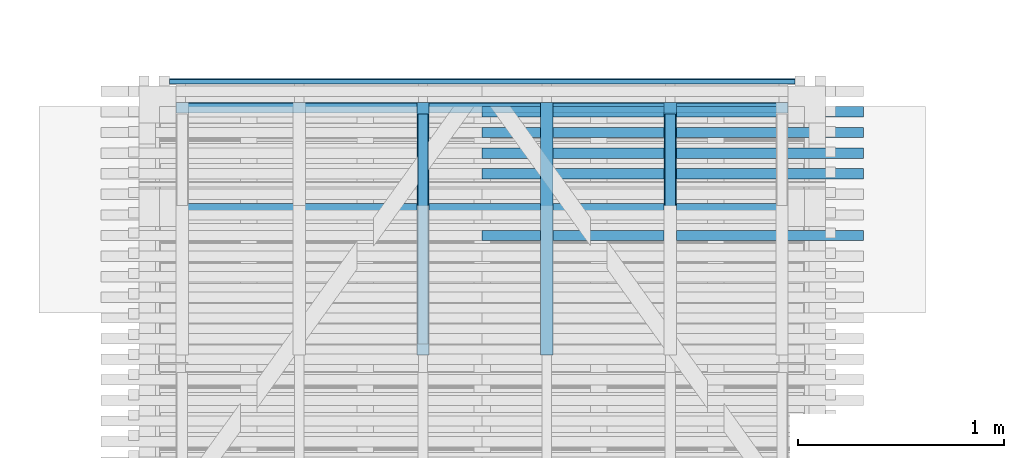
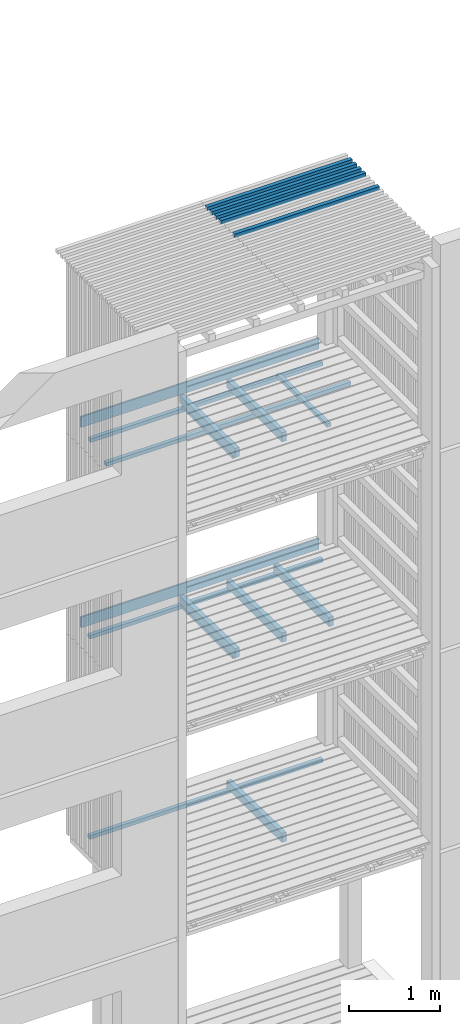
# One storey, part 103 of 182: 20 beams.
"""IFC2X3 building model written with IfcOpenShell, lengths in metres."""

import ifcopenshell
import ifcopenshell.guid

model = None  # the IFC model being written
_history = None  # IfcOwnerHistory: only IFC2X3 demands one
_inside = {}  # id of a spatial element -> (the spatial element, [elements in it])
_under = {}  # id of a project, library or spatial element -> (it, [spatial elements below it])
_declared = {}  # id of a project -> (the project, [libraries it declares])
_typed = {}  # id of a type object -> (the type object, [elements of that type])
_made_of = {}  # id of a material, layer set ... -> (it, [elements and type objects made of it])


def new_model(schema):
    """Start an empty IFC model of exactly this schema.

    Asked for "IFC4X3", IfcOpenShell would pick the latest addendum, in which some entities
    have other attributes; the version numbers below select the first issue.
    IFC2X3 requires an IfcOwnerHistory on every rooted entity: one is made here for all.
    """
    global model, _history
    if schema == "IFC4X3":
        model = ifcopenshell.file(schema_version=(4, 3, 0, 0))
    else:
        model = ifcopenshell.file(schema=schema)
    _inside.clear()
    _under.clear()
    _declared.clear()
    _typed.clear()
    _made_of.clear()
    _history = None
    if model.schema == "IFC2X3":
        org = make("IfcOrganization", Name="unknown")
        user = make(
            "IfcPersonAndOrganization",
            ThePerson=make("IfcPerson", FamilyName="unknown"),
            TheOrganization=org,
        )
        app = make(
            "IfcApplication",
            ApplicationDeveloper=org,
            Version="unknown",
            ApplicationFullName="unknown",
            ApplicationIdentifier="unknown",
        )
        _history = make(
            "IfcOwnerHistory",
            OwningUser=user,
            OwningApplication=app,
            ChangeAction="ADDED",
            CreationDate=0,
        )
    return model


def make(cls, **values):
    """One entity of the class cls with the attributes given. An attribute that is None is left unset."""
    return model.create_entity(
        cls, **{name: value for name, value in values.items() if value is not None}
    )


def rooted(cls, **values):
    """An entity with a GlobalId (a new one), such as an element, a storey or a relation."""
    return make(cls, GlobalId=ifcopenshell.guid.new(), OwnerHistory=_history, **values)


def si_unit(unit_type, name, prefix=None):
    """IfcSIUnit, for example si_unit("LENGTHUNIT", "METRE", prefix="MILLI")."""
    return make("IfcSIUnit", UnitType=unit_type, Prefix=prefix, Name=name)


def assignment(units):
    """IfcUnitAssignment: the units of a project."""
    return None if units is None else make("IfcUnitAssignment", Units=units)


def point(xyz):
    """IfcCartesianPoint."""
    return None if xyz is None else make("IfcCartesianPoint", Coordinates=xyz)


def direction(xyz):
    """IfcDirection."""
    return None if xyz is None else make("IfcDirection", DirectionRatios=xyz)


def frame(location, z_axis=None, x_axis=None):
    """IfcAxis2Placement3D, a coordinate frame: its origin and axes. An axis left out is left unset."""
    return make(
        "IfcAxis2Placement3D",
        Location=point(location),
        Axis=direction(z_axis),
        RefDirection=direction(x_axis),
    )


def origin():
    """The frame at (0, 0, 0) with its axes left unset."""
    return frame((0.0, 0.0, 0.0))


def place(relative_to, where):
    """IfcLocalPlacement: puts the frame where relative to a parent placement (None: the world)."""
    return make(
        "IfcLocalPlacement", PlacementRelTo=relative_to, RelativePlacement=where
    )


def context(
    kind, dimensions, precision=None, world=None, true_north=None, identifier=None
):
    """IfcGeometricRepresentationContext, for example the 3D "Model" context."""
    return make(
        "IfcGeometricRepresentationContext",
        ContextIdentifier=identifier,
        ContextType=kind,
        CoordinateSpaceDimension=dimensions,
        Precision=precision,
        WorldCoordinateSystem=world,
        TrueNorth=true_north,
    )


def project(units=None, contexts=None):
    """IfcProject with its units and contexts."""
    return rooted(
        "IfcProject",
        Name="project",
        RepresentationContexts=contexts,
        UnitsInContext=assignment(units),
    )


def spatial(cls, under=None, at=None, **own):
    """A site, building, storey or space (cls), placed at a placement, below another one or the project."""
    s = rooted(cls, ObjectPlacement=at, **own)
    if under is not None:
        _under.setdefault(under.id(), (under, []))[1].append(s)
    return s


def faces_of(points, faces, orient=None, outer=None):
    """IfcFace entities. A face is a list of loops; a loop is a list of indices into points, from 0.

    orient and outer hold one flag for each loop. By default every Orientation is true, the
    first loop of a face is its IfcFaceOuterBound and the others are IfcFaceBound.
    """
    made = []
    for i, loops in enumerate(faces):
        bounds = []
        for j, loop in enumerate(loops):
            is_outer = j == 0 if outer is None else outer[i][j]
            bounds.append(
                make(
                    "IfcFaceOuterBound" if is_outer else "IfcFaceBound",
                    Bound=make("IfcPolyLoop", Polygon=[points[k] for k in loop]),
                    Orientation=True if orient is None else orient[i][j],
                )
            )
        made.append(make("IfcFace", Bounds=bounds))
    return made


def faceted_brep(points, faces, orient=None, outer=None, voids=None):
    """IfcFacetedBrep: a solid bounded by flat faces; with voids (closed shells), ...WithVoids."""
    shared = [point(p) for p in points]
    hull = make("IfcClosedShell", CfsFaces=faces_of(shared, faces, orient, outer))
    if voids is None:
        return make("IfcFacetedBrep", Outer=hull)
    return make(
        "IfcFacetedBrepWithVoids",
        Outer=hull,
        Voids=[
            make(cls, CfsFaces=faces_of(shared, fs, o, b)) for cls, fs, o, b in voids
        ],
    )


def shape(context_of_items, identifier, shape_type, items):
    """IfcShapeRepresentation: the items that make up one representation, for example the "Body"."""
    return make(
        "IfcShapeRepresentation",
        ContextOfItems=context_of_items,
        RepresentationIdentifier=identifier,
        RepresentationType=shape_type,
        Items=items,
    )


def made_of(thing, what):
    """Note that an element or type object is made of a material, layer set ...; save() writes the relation."""
    if what is not None:
        _made_of.setdefault(what.id(), (what, []))[1].append(thing)
    return thing


def element(
    cls,
    number,
    at=None,
    inside=None,
    cuts=None,
    type_object=None,
    material=None,
    context=None,
    identifier="Body",
    shape_type=None,
    held_by="IfcProductDefinitionShape",
    body=None,
    shapes=None,
    **own,
):
    """One element of the class cls, such as IfcWall. Its Tag is "e" and its number.

    at: its placement. inside: the storey or other place that contains it. cuts: it is an
    opening in that element (IfcRelVoidsElement). A single representation is given by context,
    identifier, shape_type and body (its items); several are given by shapes. held_by: the class
    of the entity that holds the representations. save() writes the other relations.
    """
    e = rooted(cls, Tag="e%d" % number, ObjectPlacement=at, **own)
    if body is not None:
        shapes = [shape(context, identifier, shape_type, body)]
    if shapes is not None:
        e.Representation = make(held_by, Representations=shapes)
    if inside is not None:
        _inside.setdefault(inside.id(), (inside, []))[1].append(e)
    if cuts is not None:
        rooted(
            "IfcRelVoidsElement", RelatingBuildingElement=cuts, RelatedOpeningElement=e
        )
    if type_object is not None:
        _typed.setdefault(type_object.id(), (type_object, []))[1].append(e)
    return made_of(e, material)


def aggregate(whole, parts):
    """IfcRelAggregates: a whole, such as a stair, and the parts it consists of."""
    return rooted("IfcRelAggregates", RelatingObject=whole, RelatedObjects=parts)


def save(model, path):
    """Write the relations noted so far, then the file.

    IfcRelAggregates (storeys below a building ...), IfcRelContainedInSpatialStructure (elements
    in a storey), IfcRelDefinesByType, IfcRelAssociatesMaterial and IfcRelDeclares: one each for
    every whole, place, type object, material and project.
    """
    for whole, parts in _under.values():
        aggregate(whole, parts)
    for where, things in _inside.values():
        rooted(
            "IfcRelContainedInSpatialStructure",
            RelatedElements=things,
            RelatingStructure=where,
        )
    for kind, things in _typed.values():
        rooted("IfcRelDefinesByType", RelatedObjects=things, RelatingType=kind)
    for what, things in _made_of.values():
        rooted("IfcRelAssociatesMaterial", RelatedObjects=things, RelatingMaterial=what)
    for by, libraries in _declared.values():
        rooted("IfcRelDeclares", RelatingContext=by, RelatedDefinitions=libraries)
    model.write(path)


model = new_model("IFC2X3")

# Units and contexts
model_context = context("Model", 3, precision=1e-06, world=origin())
ifc_project = project(units=[si_unit("LENGTHUNIT", "METRE"), si_unit("PLANEANGLEUNIT", "RADIAN")], contexts=[model_context])

# Site, building, storey
site = spatial("IfcSite", under=ifc_project, CompositionType="ELEMENT")
building = spatial("IfcBuilding", under=site, CompositionType="ELEMENT")
storey = spatial("IfcBuildingStorey", under=building, Name="vs", CompositionType="ELEMENT", Elevation=-0.85)

# Beams
placement = place(None, origin())
beam_1_placement = place(placement, frame((46.53040135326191, 6.545077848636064, 10.47999999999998), z_axis=(0.0, 0.0, 1.0), x_axis=(-1.0, 0.0, 0.0)))
element("IfcBeam", 1, at=beam_1_placement, inside=storey, Name="Bardage", context=model_context, shape_type="Brep", body=[
    faceted_brep([(-3e-15, 0.024999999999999, 0.025000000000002), (-3e-15, -0.025000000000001, 0.025000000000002), (1.849999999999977, -0.025000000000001, 0.025000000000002), (1.849999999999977, 0.024999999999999, 0.025000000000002), (1.849999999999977, -0.025000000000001, 0.025000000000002), (-3e-15, -0.025000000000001, 0.025000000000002), (-3e-15, -0.025000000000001, -0.024999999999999), (1.849999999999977, -0.025000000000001, -0.024999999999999), (-3e-15, -0.025000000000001, 0.025000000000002), (-3e-15, 0.024999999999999, 0.025000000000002), (-3e-15, 0.024999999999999, -0.024999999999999), (-3e-15, -0.025000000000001, -0.024999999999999), (-3e-15, 0.024999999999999, -0.024999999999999), (-3e-15, 0.024999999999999, 0.025000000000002), (1.849999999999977, 0.024999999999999, 0.025000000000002), (1.849999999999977, 0.024999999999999, -0.024999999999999), (1.849999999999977, -0.025000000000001, -0.024999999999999), (-3e-15, -0.025000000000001, -0.024999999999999), (-3e-15, 0.024999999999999, -0.024999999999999), (1.849999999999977, 0.024999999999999, -0.024999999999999), (1.849999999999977, -0.025000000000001, 0.025000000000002), (1.849999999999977, -0.025000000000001, -0.024999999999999), (1.849999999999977, 0.024999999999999, -0.024999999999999), (1.849999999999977, 0.024999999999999, 0.025000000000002)], [[[0, 1, 2, 3]], [[4, 5, 6, 7]], [[8, 9, 10, 11]], [[12, 13, 14, 15]], [[16, 17, 18, 19]], [[20, 21, 22, 23]]]),
])
beam_2_placement = place(placement, frame((46.53040135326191, 6.945077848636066, 10.47999999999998), z_axis=(0.0, 0.0, 1.0), x_axis=(-1.0, 0.0, 0.0)))
element("IfcBeam", 2, at=beam_2_placement, inside=storey, Name="Bardage", context=model_context, shape_type="Brep", body=[
    faceted_brep([(-3e-15, 0.025000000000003, 0.025000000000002), (-3e-15, -0.024999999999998, 0.025000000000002), (1.849999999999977, -0.025000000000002, 0.025000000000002), (1.849999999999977, 0.025000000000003, 0.025000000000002), (1.849999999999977, -0.025000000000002, 0.025000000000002), (-3e-15, -0.024999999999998, 0.025000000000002), (-3e-15, -0.024999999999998, -0.024999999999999), (1.849999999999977, -0.025000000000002, -0.024999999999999), (-3e-15, -0.024999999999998, 0.025000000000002), (-3e-15, 0.025000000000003, 0.025000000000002), (-3e-15, 0.025000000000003, -0.024999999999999), (-3e-15, -0.024999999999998, -0.024999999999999), (-3e-15, 0.025000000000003, -0.024999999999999), (-3e-15, 0.025000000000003, 0.025000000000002), (1.849999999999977, 0.025000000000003, 0.025000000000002), (1.849999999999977, 0.025000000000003, -0.024999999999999), (1.849999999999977, -0.025000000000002, -0.024999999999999), (-3e-15, -0.024999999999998, -0.024999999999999), (-3e-15, 0.025000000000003, -0.024999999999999), (1.849999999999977, 0.025000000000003, -0.024999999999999), (1.849999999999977, -0.025000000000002, 0.025000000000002), (1.849999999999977, -0.025000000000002, -0.024999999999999), (1.849999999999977, 0.025000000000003, -0.024999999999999), (1.849999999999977, 0.025000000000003, 0.025000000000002)], [[[0, 1, 2, 3]], [[4, 5, 6, 7]], [[8, 9, 10, 11]], [[12, 13, 14, 15]], [[16, 17, 18, 19]], [[20, 21, 22, 23]]]),
])
beam_3_placement = place(placement, frame((46.53040135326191, 6.845077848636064, 10.47999999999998), z_axis=(0.0, 0.0, 1.0), x_axis=(-1.0, 2e-15, 0.0)))
element("IfcBeam", 3, at=beam_3_placement, inside=storey, Name="Bardage", context=model_context, shape_type="Brep", body=[
    faceted_brep([(-3e-15, 0.024999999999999, 0.025000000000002), (-3e-15, -0.025000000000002, 0.025000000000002), (1.849999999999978, -0.024999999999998, 0.025000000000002), (1.849999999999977, 0.025000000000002, 0.025000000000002), (1.849999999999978, -0.024999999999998, 0.025000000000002), (-3e-15, -0.025000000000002, 0.025000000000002), (-3e-15, -0.025000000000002, -0.024999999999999), (1.849999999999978, -0.024999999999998, -0.024999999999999), (-3e-15, -0.025000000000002, 0.025000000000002), (-3e-15, 0.024999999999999, 0.025000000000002), (-3e-15, 0.024999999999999, -0.024999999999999), (-3e-15, -0.025000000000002, -0.024999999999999), (-3e-15, 0.024999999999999, -0.024999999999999), (-3e-15, 0.024999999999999, 0.025000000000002), (1.849999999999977, 0.025000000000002, 0.025000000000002), (1.849999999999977, 0.025000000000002, -0.024999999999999), (1.849999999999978, -0.024999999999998, -0.024999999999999), (-3e-15, -0.025000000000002, -0.024999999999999), (-3e-15, 0.024999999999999, -0.024999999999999), (1.849999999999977, 0.025000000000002, -0.024999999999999), (1.849999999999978, -0.024999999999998, 0.025000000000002), (1.849999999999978, -0.024999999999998, -0.024999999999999), (1.849999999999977, 0.025000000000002, -0.024999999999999), (1.849999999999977, 0.025000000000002, 0.025000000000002)], [[[0, 1, 2, 3]], [[4, 5, 6, 7]], [[8, 9, 10, 11]], [[12, 13, 14, 15]], [[16, 17, 18, 19]], [[20, 21, 22, 23]]]),
])
beam_4_placement = place(placement, frame((46.53040135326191, 7.045077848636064, 10.47999999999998), z_axis=(0.0, 0.0, 1.0), x_axis=(-1.0, 0.0, 0.0)))
element("IfcBeam", 4, at=beam_4_placement, inside=storey, Name="Bardage", context=model_context, shape_type="Brep", body=[
    faceted_brep([(-3e-15, 0.024999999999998, 0.025000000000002), (-3e-15, -0.025000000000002, 0.025000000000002), (1.849999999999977, -0.025000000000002, 0.025000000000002), (1.849999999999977, 0.024999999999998, 0.025000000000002), (1.849999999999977, -0.025000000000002, 0.025000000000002), (-3e-15, -0.025000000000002, 0.025000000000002), (-3e-15, -0.025000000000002, -0.024999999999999), (1.849999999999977, -0.025000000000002, -0.024999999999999), (-3e-15, -0.025000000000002, 0.025000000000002), (-3e-15, 0.024999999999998, 0.025000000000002), (-3e-15, 0.024999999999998, -0.024999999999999), (-3e-15, -0.025000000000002, -0.024999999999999), (-3e-15, 0.024999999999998, -0.024999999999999), (-3e-15, 0.024999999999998, 0.025000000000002), (1.849999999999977, 0.024999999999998, 0.025000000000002), (1.849999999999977, 0.024999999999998, -0.024999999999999), (1.849999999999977, -0.025000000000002, -0.024999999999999), (-3e-15, -0.025000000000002, -0.024999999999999), (-3e-15, 0.024999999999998, -0.024999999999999), (1.849999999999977, 0.024999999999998, -0.024999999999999), (1.849999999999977, -0.025000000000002, 0.025000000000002), (1.849999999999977, -0.025000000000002, -0.024999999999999), (1.849999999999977, 0.024999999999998, -0.024999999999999), (1.849999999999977, 0.024999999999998, 0.025000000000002)], [[[0, 1, 2, 3]], [[4, 5, 6, 7]], [[8, 9, 10, 11]], [[12, 13, 14, 15]], [[16, 17, 18, 19]], [[20, 21, 22, 23]]]),
])
beam_5_placement = place(placement, frame((46.53040135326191, 7.145077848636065, 10.47999999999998), z_axis=(0.0, 0.0, 1.0), x_axis=(-1.0, 0.0, 0.0)))
element("IfcBeam", 5, at=beam_5_placement, inside=storey, Name="Bardage", context=model_context, shape_type="Brep", body=[
    faceted_brep([(-3e-15, 0.024999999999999, 0.025000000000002), (-3e-15, -0.024999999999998, 0.025000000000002), (1.849999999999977, -0.024999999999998, 0.025000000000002), (1.849999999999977, 0.024999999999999, 0.025000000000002), (1.849999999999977, -0.024999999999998, 0.025000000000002), (-3e-15, -0.024999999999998, 0.025000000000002), (-3e-15, -0.024999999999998, -0.024999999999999), (1.849999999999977, -0.024999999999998, -0.024999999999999), (-3e-15, -0.024999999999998, 0.025000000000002), (-3e-15, 0.024999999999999, 0.025000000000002), (-3e-15, 0.024999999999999, -0.024999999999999), (-3e-15, -0.024999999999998, -0.024999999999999), (-3e-15, 0.024999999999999, -0.024999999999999), (-3e-15, 0.024999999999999, 0.025000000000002), (1.849999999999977, 0.024999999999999, 0.025000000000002), (1.849999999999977, 0.024999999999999, -0.024999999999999), (1.849999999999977, -0.024999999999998, -0.024999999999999), (-3e-15, -0.024999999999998, -0.024999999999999), (-3e-15, 0.024999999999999, -0.024999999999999), (1.849999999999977, 0.024999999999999, -0.024999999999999), (1.849999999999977, -0.024999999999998, 0.025000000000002), (1.849999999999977, -0.024999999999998, -0.024999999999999), (1.849999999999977, 0.024999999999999, -0.024999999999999), (1.849999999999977, 0.024999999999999, 0.025000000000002)], [[[0, 1, 2, 3]], [[4, 5, 6, 7]], [[8, 9, 10, 11]], [[12, 13, 14, 15]], [[16, 17, 18, 19]], [[20, 21, 22, 23]]]),
])
beam_6_placement = place(placement, frame((45.59340135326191, 5.965077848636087, 5.304249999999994), z_axis=(0.0, 0.0, 1.0), x_axis=(0.0, 1.0, 0.0)))
element("IfcBeam", 6, at=beam_6_placement, inside=storey, Name="Solive", context=model_context, shape_type="Brep", body=[
    faceted_brep([(0.0, -0.029999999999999, -0.061849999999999), (1.225000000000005, -0.029999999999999, -0.061849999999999), (1.225000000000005, -0.029999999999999, 0.03735), (0.0, -0.029999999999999, 0.06185), (0.0, 0.030000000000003, -0.061849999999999), (1.225000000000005, 0.029999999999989, -0.061849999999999), (1.225000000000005, -0.029999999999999, -0.061849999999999), (0.0, -0.029999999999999, -0.061849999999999), (0.0, 0.030000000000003, 0.061850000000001), (0.0, 0.030000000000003, -0.061849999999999), (0.0, -0.029999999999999, -0.061849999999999), (0.0, -0.029999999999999, 0.06185), (1.225000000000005, 0.029999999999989, -0.061849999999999), (0.0, 0.030000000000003, -0.061849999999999), (0.0, 0.030000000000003, 0.061850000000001), (1.225000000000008, 0.029999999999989, 0.03735), (1.225000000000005, -0.029999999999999, 0.03735), (1.225000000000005, -0.029999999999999, -0.061849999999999), (1.225000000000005, 0.029999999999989, -0.061849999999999), (1.225000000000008, 0.029999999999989, 0.03735), (0.0, -0.029999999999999, 0.06185), (1.225000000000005, -0.029999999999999, 0.03735), (1.225000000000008, 0.029999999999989, 0.03735), (0.0, 0.030000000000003, 0.061850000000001)], [[[0, 1, 2, 3]], [[4, 5, 6, 7]], [[8, 9, 10, 11]], [[12, 13, 14, 15]], [[16, 17, 18, 19]], [[20, 21, 22, 23]]]),
])
beam_7_placement = place(placement, frame((45.593401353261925, 7.135077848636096, 7.91739999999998), z_axis=(0.0, 0.0, 1.0), x_axis=(0.0, -1.0, 0.0)))
element("IfcBeam", 7, at=beam_7_placement, inside=storey, Name="Calage", context=model_context, shape_type="Brep", body=[
    faceted_brep([(0.0, -0.025000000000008, -0.025), (0.0, -0.025000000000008, 0.024999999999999), (0.0, 0.024999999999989, 0.024999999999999), (0.0, 0.024999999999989, -0.025), (1.115000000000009, 0.024999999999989, 0.024999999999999), (1.115000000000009, -0.025000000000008, 0.024999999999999), (1.115000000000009, -0.025000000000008, -0.025), (1.115000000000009, 0.024999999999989, -0.025), (0.0, 0.024999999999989, 0.024999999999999), (0.0, -0.025000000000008, 0.024999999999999), (1.115000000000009, -0.025000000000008, 0.024999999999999), (1.115000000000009, 0.024999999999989, 0.024999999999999), (1.115000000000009, -0.025000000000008, 0.024999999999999), (0.0, -0.025000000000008, 0.024999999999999), (0.0, -0.025000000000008, -0.025), (1.115000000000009, -0.025000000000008, -0.025), (1.115000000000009, -0.025000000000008, -0.025), (0.0, -0.025000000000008, -0.025), (0.0, 0.024999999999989, -0.025), (1.115000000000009, 0.024999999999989, -0.025), (1.115000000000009, 0.024999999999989, -0.025), (0.0, 0.024999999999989, -0.025), (0.0, 0.024999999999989, 0.024999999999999), (1.115000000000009, 0.024999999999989, 0.024999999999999)], [[[0, 1, 2, 3]], [[4, 5, 6, 7]], [[8, 9, 10, 11]], [[12, 13, 14, 15]], [[16, 17, 18, 19]], [[20, 21, 22, 23]]]),
])
beam_8_placement = place(placement, frame((44.993401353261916, 5.965077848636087, 8.00424999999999), z_axis=(0.0, 0.0, 1.0), x_axis=(0.0, 1.0, 0.0)))
element("IfcBeam", 8, at=beam_8_placement, inside=storey, Name="Solive", context=model_context, shape_type="Brep", body=[
    faceted_brep([(0.0, -0.030000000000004, -0.061849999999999), (1.225000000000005, -0.030000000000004, -0.061849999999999), (1.225000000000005, -0.030000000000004, 0.037349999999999), (0.0, -0.030000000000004, 0.061849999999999), (0.0, 0.029999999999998, 0.061850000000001), (0.0, 0.029999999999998, -0.061849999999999), (0.0, -0.030000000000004, -0.061849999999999), (0.0, -0.030000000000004, 0.061849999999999), (0.0, -0.030000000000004, -0.061849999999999), (0.0, 0.029999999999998, -0.061849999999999), (1.225000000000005, 0.029999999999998, -0.061849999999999), (1.225000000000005, -0.030000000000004, -0.061849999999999), (1.225000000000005, 0.029999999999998, -0.061849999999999), (0.0, 0.029999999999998, -0.061849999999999), (0.0, 0.029999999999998, 0.061850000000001), (1.225000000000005, 0.029999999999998, 0.037349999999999), (1.225000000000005, -0.030000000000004, 0.037349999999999), (1.225000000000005, -0.030000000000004, -0.061849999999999), (1.225000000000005, 0.029999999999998, -0.061849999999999), (1.225000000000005, 0.029999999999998, 0.037349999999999), (0.0, -0.030000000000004, 0.061849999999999), (1.225000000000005, -0.030000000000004, 0.037349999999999), (1.225000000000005, 0.029999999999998, 0.037349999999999), (0.0, 0.029999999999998, 0.061850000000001)], [[[0, 1, 2, 3]], [[4, 5, 6, 7]], [[8, 9, 10, 11]], [[12, 13, 14, 15]], [[16, 17, 18, 19]], [[20, 21, 22, 23]]]),
])
beam_9_placement = place(placement, frame((44.993401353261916, 5.965077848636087, 2.604249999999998), z_axis=(0.0, 0.0, 1.0), x_axis=(0.0, 1.0, 0.0)))
element("IfcBeam", 9, at=beam_9_placement, inside=storey, Name="Solive", context=model_context, shape_type="Brep", body=[
    faceted_brep([(0.0, -0.030000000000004, -0.06185), (1.225000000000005, -0.030000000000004, -0.06185), (1.225000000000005, -0.030000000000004, 0.037349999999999), (0.0, -0.030000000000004, 0.06185), (0.0, 0.029999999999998, 0.06185), (0.0, 0.029999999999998, -0.06185), (0.0, -0.030000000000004, -0.06185), (0.0, -0.030000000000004, 0.06185), (0.0, -0.030000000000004, -0.06185), (0.0, 0.029999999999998, -0.06185), (1.225000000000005, 0.029999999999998, -0.06185), (1.225000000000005, -0.030000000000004, -0.06185), (1.225000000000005, 0.029999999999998, -0.06185), (0.0, 0.029999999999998, -0.06185), (0.0, 0.029999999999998, 0.06185), (1.225000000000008, 0.029999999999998, 0.037349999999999), (1.225000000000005, -0.030000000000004, 0.037349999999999), (1.225000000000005, -0.030000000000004, -0.06185), (1.225000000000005, 0.029999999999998, -0.06185), (1.225000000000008, 0.029999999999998, 0.037349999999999), (0.0, -0.030000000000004, 0.06185), (1.225000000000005, -0.030000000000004, 0.037349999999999), (1.225000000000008, 0.029999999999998, 0.037349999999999), (0.0, 0.029999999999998, 0.06185)], [[[0, 1, 2, 3]], [[4, 5, 6, 7]], [[8, 9, 10, 11]], [[12, 13, 14, 15]], [[16, 17, 18, 19]], [[20, 21, 22, 23]]]),
])
beam_10_placement = place(placement, frame((43.16358317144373, 7.293577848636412, 5.342499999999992), z_axis=(0.0, 1.0, 0.0), x_axis=(1.0, 0.0, 0.0)))
element("IfcBeam", 10, at=beam_10_placement, inside=storey, Name="Caillebotis", context=model_context, shape_type="Brep", body=[
    faceted_brep([(-3e-15, -0.072500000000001, -0.013500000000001), (-3e-15, 0.072499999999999, -0.013500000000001), (3.033636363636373, 0.072499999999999, -0.013499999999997), (3.033636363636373, -0.072500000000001, -0.013499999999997), (-3e-15, -0.072500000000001, 0.008500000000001), (-3e-15, -0.072500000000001, -0.013500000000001), (3.033636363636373, -0.072500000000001, -0.013499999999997), (3.033636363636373, -0.072500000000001, 0.008500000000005), (-3e-15, -0.067500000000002, 0.0135), (-3e-15, -0.072500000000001, 0.008500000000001), (3.033636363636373, -0.072500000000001, 0.008500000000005), (3.033636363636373, -0.067500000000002, 0.013500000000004), (-3e-15, -0.072500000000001, -0.013500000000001), (-3e-15, -0.072500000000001, 0.008500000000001), (-3e-15, -0.067500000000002, 0.0135), (-3e-15, 0.0675, 0.0135), (-3e-15, 0.072499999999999, 0.008500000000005), (-3e-15, 0.072499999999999, -0.013500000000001), (-3e-15, 0.0675, 0.0135), (-3e-15, -0.067500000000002, 0.0135), (3.033636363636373, -0.067500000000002, 0.013500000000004), (3.033636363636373, 0.0675, 0.013500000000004), (-3e-15, 0.072499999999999, 0.008500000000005), (-3e-15, 0.0675, 0.0135), (3.033636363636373, 0.0675, 0.013500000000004), (3.033636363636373, 0.072499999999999, 0.008500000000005), (3.033636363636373, 0.072499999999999, -0.013499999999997), (-3e-15, 0.072499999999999, -0.013500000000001), (-3e-15, 0.072499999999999, 0.008500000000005), (3.033636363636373, 0.072499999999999, 0.008500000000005), (3.033636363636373, -0.072500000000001, 0.008500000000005), (3.033636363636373, -0.072500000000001, -0.013499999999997), (3.033636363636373, 0.072499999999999, -0.013499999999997), (3.033636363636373, 0.072499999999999, 0.008500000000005), (3.033636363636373, 0.0675, 0.013500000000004), (3.033636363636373, -0.067500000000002, 0.013500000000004)], [[[0, 1, 2, 3]], [[4, 5, 6, 7]], [[8, 9, 10, 11]], [[12, 13, 14, 15, 16, 17]], [[18, 19, 20, 21]], [[22, 23, 24, 25]], [[26, 27, 28, 29]], [[30, 31, 32, 33, 34, 35]]]),
])
beam_11_placement = place(placement, frame((44.39340135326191, 5.965077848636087, 5.304249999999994), z_axis=(0.0, 0.0, 1.0), x_axis=(1.2e-14, 1.0, 0.0)))
element("IfcBeam", 11, at=beam_11_placement, inside=storey, Name="Solive", context=model_context, shape_type="Brep", body=[
    faceted_brep([(0.0, -0.030000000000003, -0.061849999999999), (1.225000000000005, -0.029999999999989, -0.061849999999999), (1.225000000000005, -0.029999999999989, 0.03735), (0.0, -0.030000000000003, 0.06185), (-1e-15, 0.029999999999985, -0.061849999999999), (1.225000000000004, 0.029999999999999, -0.061849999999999), (1.225000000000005, -0.029999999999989, -0.061849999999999), (0.0, -0.030000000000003, -0.061849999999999), (-1e-15, 0.029999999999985, 0.061850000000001), (-1e-15, 0.029999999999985, -0.061849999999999), (0.0, -0.030000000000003, -0.061849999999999), (0.0, -0.030000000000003, 0.06185), (1.225000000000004, 0.029999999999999, -0.061849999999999), (-1e-15, 0.029999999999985, -0.061849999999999), (-1e-15, 0.029999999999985, 0.061850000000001), (1.225000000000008, 0.029999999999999, 0.03735), (1.225000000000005, -0.029999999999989, 0.03735), (1.225000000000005, -0.029999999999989, -0.061849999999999), (1.225000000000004, 0.029999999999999, -0.061849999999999), (1.225000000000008, 0.029999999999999, 0.03735), (0.0, -0.030000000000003, 0.06185), (1.225000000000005, -0.029999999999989, 0.03735), (1.225000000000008, 0.029999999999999, 0.03735), (-1e-15, 0.029999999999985, 0.061850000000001)], [[[0, 1, 2, 3]], [[4, 5, 6, 7]], [[8, 9, 10, 11]], [[12, 13, 14, 15]], [[16, 17, 18, 19]], [[20, 21, 22, 23]]]),
])
beam_12_placement = place(placement, frame((44.39340135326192, 7.135077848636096, 7.91739999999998), z_axis=(0.0, 0.0, 1.0), x_axis=(0.0, -1.0, 0.0)))
element("IfcBeam", 12, at=beam_12_placement, inside=storey, Name="Calage", context=model_context, shape_type="Brep", body=[
    faceted_brep([(1.115000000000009, 0.024999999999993, 0.024999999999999), (1.115000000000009, -0.025000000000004, 0.024999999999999), (1.115000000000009, -0.025000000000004, -0.025), (1.115000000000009, 0.024999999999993, -0.025), (0.0, -0.025000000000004, -0.025), (0.0, -0.025000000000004, 0.024999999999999), (0.0, 0.024999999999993, 0.024999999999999), (0.0, 0.024999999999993, -0.025), (1.115000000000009, -0.025000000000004, 0.024999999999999), (1.115000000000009, 0.024999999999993, 0.024999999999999), (0.0, 0.024999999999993, 0.024999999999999), (0.0, -0.025000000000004, 0.024999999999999), (1.115000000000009, -0.025000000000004, -0.025), (1.115000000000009, -0.025000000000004, 0.024999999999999), (0.0, -0.025000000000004, 0.024999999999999), (0.0, -0.025000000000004, -0.025), (1.115000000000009, 0.024999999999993, -0.025), (1.115000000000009, -0.025000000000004, -0.025), (0.0, -0.025000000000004, -0.025), (0.0, 0.024999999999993, -0.025), (0.0, 0.024999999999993, 0.024999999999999), (1.115000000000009, 0.024999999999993, 0.024999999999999), (1.115000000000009, 0.024999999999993, -0.025), (0.0, 0.024999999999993, -0.025)], [[[0, 1, 2, 3]], [[4, 5, 6, 7]], [[8, 9, 10, 11]], [[12, 13, 14, 15]], [[16, 17, 18, 19]], [[20, 21, 22, 23]]]),
])
beam_13_placement = place(placement, frame((44.39340135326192, 5.965077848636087, 8.00424999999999), z_axis=(0.0, 0.0, 1.0), x_axis=(0.0, 1.0, 0.0)))
element("IfcBeam", 13, at=beam_13_placement, inside=storey, Name="Solive", context=model_context, shape_type="Brep", body=[
    faceted_brep([(0.0, -0.029999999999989, -0.061849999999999), (1.225000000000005, -0.029999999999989, -0.061849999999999), (1.225000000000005, -0.029999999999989, 0.037349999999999), (0.0, -0.029999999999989, 0.061849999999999), (0.0, 0.029999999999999, -0.061849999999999), (1.225000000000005, 0.029999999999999, -0.061849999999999), (1.225000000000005, -0.029999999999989, -0.061849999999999), (0.0, -0.029999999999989, -0.061849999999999), (0.0, 0.029999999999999, 0.061850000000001), (0.0, 0.029999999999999, -0.061849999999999), (0.0, -0.029999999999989, -0.061849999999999), (0.0, -0.029999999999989, 0.061849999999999), (1.225000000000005, 0.029999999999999, -0.061849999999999), (0.0, 0.029999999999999, -0.061849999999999), (0.0, 0.029999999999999, 0.061850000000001), (1.225000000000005, 0.029999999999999, 0.037349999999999), (1.225000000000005, -0.029999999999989, 0.037349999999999), (1.225000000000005, -0.029999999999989, -0.061849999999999), (1.225000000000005, 0.029999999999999, -0.061849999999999), (1.225000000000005, 0.029999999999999, 0.037349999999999), (0.0, -0.029999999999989, 0.061849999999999), (1.225000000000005, -0.029999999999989, 0.037349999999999), (1.225000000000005, 0.029999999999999, 0.037349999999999), (0.0, 0.029999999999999, 0.061850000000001)], [[[0, 1, 2, 3]], [[4, 5, 6, 7]], [[8, 9, 10, 11]], [[12, 13, 14, 15]], [[16, 17, 18, 19]], [[20, 21, 22, 23]]]),
])
beam_14_placement = place(placement, frame((46.240401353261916, 6.674661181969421, 7.86739999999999), z_axis=(0.0, 0.0, 1.0), x_axis=(-1.0, 0.0, 0.0)))
element("IfcBeam", 14, at=beam_14_placement, inside=storey, Name="Bardage", context=model_context, shape_type="Brep", body=[
    faceted_brep([(3.119999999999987, 0.024999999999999, 0.025000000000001), (3.119999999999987, -0.024999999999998, 0.025000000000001), (3.119999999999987, -0.024999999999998, -0.024999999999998), (3.119999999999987, 0.024999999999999, -0.024999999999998), (-3e-15, -0.025000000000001, 0.025000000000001), (-3e-15, 0.024999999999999, 0.025000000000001), (-3e-15, 0.024999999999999, -0.024999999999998), (-3e-15, -0.025000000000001, -0.024999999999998), (3.119999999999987, 0.024999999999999, -0.024999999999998), (3.119999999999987, -0.024999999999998, -0.024999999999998), (-3e-15, -0.025000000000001, -0.024999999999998), (-3e-15, 0.024999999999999, -0.024999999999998), (-3e-15, -0.025000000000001, -0.024999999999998), (3.119999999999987, -0.024999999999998, -0.024999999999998), (3.119999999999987, -0.024999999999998, 0.025000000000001), (-3e-15, -0.025000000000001, 0.025000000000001), (-3e-15, -0.025000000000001, 0.025000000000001), (3.119999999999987, -0.024999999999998, 0.025000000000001), (3.119999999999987, 0.024999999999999, 0.025000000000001), (-3e-15, 0.024999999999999, 0.025000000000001), (-3e-15, 0.024999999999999, 0.025000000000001), (3.119999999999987, 0.024999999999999, 0.025000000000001), (3.119999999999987, 0.024999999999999, -0.024999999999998), (-3e-15, 0.024999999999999, -0.024999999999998)], [[[0, 1, 2, 3]], [[4, 5, 6, 7]], [[8, 9, 10, 11]], [[12, 13, 14, 15]], [[16, 17, 18, 19]], [[20, 21, 22, 23]]]),
])
beam_15_placement = place(placement, frame((44.993401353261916, 5.965077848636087, 5.304249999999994), z_axis=(0.0, 0.0, 1.0), x_axis=(0.0, 1.0, 0.0)))
element("IfcBeam", 15, at=beam_15_placement, inside=storey, Name="Solive", context=model_context, shape_type="Brep", body=[
    faceted_brep([(0.0, -0.030000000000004, -0.061849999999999), (1.225000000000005, -0.030000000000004, -0.061849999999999), (1.225000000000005, -0.030000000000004, 0.03735), (0.0, -0.030000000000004, 0.06185), (0.0, 0.029999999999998, 0.061850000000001), (0.0, 0.029999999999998, -0.061849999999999), (0.0, -0.030000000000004, -0.061849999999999), (0.0, -0.030000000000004, 0.06185), (0.0, -0.030000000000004, -0.061849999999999), (0.0, 0.029999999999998, -0.061849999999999), (1.225000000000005, 0.029999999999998, -0.061849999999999), (1.225000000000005, -0.030000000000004, -0.061849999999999), (1.225000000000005, 0.029999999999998, -0.061849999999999), (0.0, 0.029999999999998, -0.061849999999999), (0.0, 0.029999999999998, 0.061850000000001), (1.225000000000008, 0.029999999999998, 0.03735), (1.225000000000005, -0.030000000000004, 0.03735), (1.225000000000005, -0.030000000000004, -0.061849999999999), (1.225000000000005, 0.029999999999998, -0.061849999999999), (1.225000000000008, 0.029999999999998, 0.03735), (0.0, -0.030000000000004, 0.06185), (1.225000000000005, -0.030000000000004, 0.03735), (1.225000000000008, 0.029999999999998, 0.03735), (0.0, 0.029999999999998, 0.061850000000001)], [[[0, 1, 2, 3]], [[4, 5, 6, 7]], [[8, 9, 10, 11]], [[12, 13, 14, 15]], [[16, 17, 18, 19]], [[20, 21, 22, 23]]]),
])
beam_16_placement = place(placement, frame((43.195401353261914, 7.16507784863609, 5.217399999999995), z_axis=(0.0, 0.0, 1.0), x_axis=(1.0, 1e-15, 0.0)))
element("IfcBeam", 16, at=beam_16_placement, inside=storey, Name="Ligneul", context=model_context, shape_type="Brep", body=[
    faceted_brep([(2e-15, -0.024999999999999, -0.024999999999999), (2.970000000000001, -0.025000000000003, -0.024999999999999), (2.970000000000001, -0.025000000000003, 0.025), (2e-15, -0.024999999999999, 0.025), (2e-15, -0.024999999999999, 0.025), (2.970000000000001, -0.025000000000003, 0.025), (2.970000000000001, 0.024999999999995, 0.025), (2e-15, 0.025000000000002, 0.025), (2e-15, 0.025000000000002, -0.024999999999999), (2e-15, -0.024999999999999, -0.024999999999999), (2e-15, -0.024999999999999, 0.025), (2e-15, 0.025000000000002, 0.025), (2e-15, 0.025000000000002, -0.024999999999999), (2e-15, 0.025000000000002, 0.025), (2.970000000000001, 0.024999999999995, 0.025), (2.970000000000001, 0.025000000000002, -0.024999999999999), (2e-15, -0.024999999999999, -0.024999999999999), (2e-15, 0.025000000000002, -0.024999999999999), (2.970000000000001, 0.025000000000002, -0.024999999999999), (2.970000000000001, -0.025000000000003, -0.024999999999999), (2.970000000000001, 0.025000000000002, -0.024999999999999), (2.970000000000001, 0.024999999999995, 0.025), (2.970000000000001, -0.025000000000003, 0.025), (2.970000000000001, -0.025000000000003, -0.024999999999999)], [[[0, 1, 2, 3]], [[4, 5, 6, 7]], [[8, 9, 10, 11]], [[12, 13, 14, 15]], [[16, 17, 18, 19]], [[20, 21, 22, 23]]]),
])
beam_17_placement = place(placement, frame((44.39340135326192, 7.135077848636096, 5.217399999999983), z_axis=(0.0, 0.0, 1.0), x_axis=(0.0, -1.0, 0.0)))
element("IfcBeam", 17, at=beam_17_placement, inside=storey, Name="Calage", context=model_context, shape_type="Brep", body=[
    faceted_brep([(1.115000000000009, 0.024999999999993, 0.024999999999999), (1.115000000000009, -0.025000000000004, 0.024999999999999), (1.115000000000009, -0.025000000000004, -0.025), (1.115000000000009, 0.024999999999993, -0.025), (0.0, -0.025000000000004, -0.025), (0.0, -0.025000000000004, 0.024999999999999), (0.0, 0.024999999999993, 0.024999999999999), (0.0, 0.024999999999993, -0.025), (1.115000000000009, -0.025000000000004, 0.024999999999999), (1.115000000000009, 0.024999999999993, 0.024999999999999), (0.0, 0.024999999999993, 0.024999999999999), (0.0, -0.025000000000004, 0.024999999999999), (1.115000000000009, -0.025000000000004, -0.025), (1.115000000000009, -0.025000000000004, 0.024999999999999), (0.0, -0.025000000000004, 0.024999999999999), (0.0, -0.025000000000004, -0.025), (1.115000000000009, 0.024999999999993, -0.025), (1.115000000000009, -0.025000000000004, -0.025), (0.0, -0.025000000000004, -0.025), (0.0, 0.024999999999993, -0.025), (0.0, 0.024999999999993, 0.024999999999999), (1.115000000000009, 0.024999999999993, 0.024999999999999), (1.115000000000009, 0.024999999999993, -0.025), (0.0, 0.024999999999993, -0.025)], [[[0, 1, 2, 3]], [[4, 5, 6, 7]], [[8, 9, 10, 11]], [[12, 13, 14, 15]], [[16, 17, 18, 19]], [[20, 21, 22, 23]]]),
])
beam_18_placement = place(placement, frame((43.195401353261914, 7.16507784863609, 2.5174), z_axis=(0.0, 0.0, 1.0), x_axis=(1.0, 1e-15, 0.0)))
element("IfcBeam", 18, at=beam_18_placement, inside=storey, Name="Ligneul", context=model_context, shape_type="Brep", body=[
    faceted_brep([(2e-15, -0.024999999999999, 0.025), (2e-15, -0.024999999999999, -0.025), (2.970000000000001, -0.025000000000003, -0.025), (2.970000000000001, -0.025000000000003, 0.025), (2e-15, 0.025000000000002, 0.025), (2e-15, -0.024999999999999, 0.025), (2.970000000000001, -0.025000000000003, 0.025), (2.970000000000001, 0.025000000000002, 0.025), (2e-15, -0.024999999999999, 0.025), (2e-15, 0.025000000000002, 0.025), (2e-15, 0.025000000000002, -0.025), (2e-15, -0.024999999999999, -0.025), (2e-15, 0.025000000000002, -0.025), (2e-15, 0.025000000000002, 0.025), (2.970000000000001, 0.025000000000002, 0.025), (2.970000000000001, 0.025000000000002, -0.025), (2.970000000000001, -0.025000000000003, -0.025), (2e-15, -0.024999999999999, -0.025), (2e-15, 0.025000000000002, -0.025), (2.970000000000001, 0.025000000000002, -0.025), (2.970000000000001, -0.025000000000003, 0.025), (2.970000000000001, -0.025000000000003, -0.025), (2.970000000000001, 0.025000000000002, -0.025), (2.970000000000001, 0.025000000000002, 0.025)], [[[0, 1, 2, 3]], [[4, 5, 6, 7]], [[8, 9, 10, 11]], [[12, 13, 14, 15]], [[16, 17, 18, 19]], [[20, 21, 22, 23]]]),
])
beam_19_placement = place(placement, frame((46.16040135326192, 7.160077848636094, 7.86739999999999), z_axis=(0.0, 0.0, 1.0), x_axis=(-1.0, 0.0, 0.0)))
element("IfcBeam", 19, at=beam_19_placement, inside=storey, Name="Bardage", context=model_context, shape_type="Brep", body=[
    faceted_brep([(2.96000000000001, -0.024999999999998, 0.025000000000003), (2.96000000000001, -0.024999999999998, -0.024999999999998), (2.96000000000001, 0.025000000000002, -0.024999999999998), (2.96000000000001, 0.025000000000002, 0.025000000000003), (2e-15, 0.024999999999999, 0.025000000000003), (2e-15, 0.024999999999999, -0.024999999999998), (2e-15, -0.024999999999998, -0.024999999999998), (2e-15, -0.024999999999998, 0.025000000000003), (2e-15, -0.024999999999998, -0.024999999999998), (2e-15, 0.024999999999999, -0.024999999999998), (2.96000000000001, 0.025000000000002, -0.024999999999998), (2.96000000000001, -0.024999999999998, -0.024999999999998), (2e-15, 0.024999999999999, -0.024999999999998), (2e-15, 0.024999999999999, 0.025000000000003), (2.96000000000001, 0.025000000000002, 0.025000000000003), (2.96000000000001, 0.025000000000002, -0.024999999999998), (2e-15, 0.024999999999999, 0.025000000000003), (2e-15, -0.024999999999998, 0.025000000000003), (2.96000000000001, -0.024999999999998, 0.025000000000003), (2.96000000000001, 0.025000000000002, 0.025000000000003), (2e-15, -0.024999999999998, 0.025000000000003), (2e-15, -0.024999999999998, -0.024999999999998), (2.96000000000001, -0.024999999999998, -0.024999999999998), (2.96000000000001, -0.024999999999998, 0.025000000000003)], [[[0, 1, 2, 3]], [[4, 5, 6, 7]], [[8, 9, 10, 11]], [[12, 13, 14, 15]], [[16, 17, 18, 19]], [[20, 21, 22, 23]]]),
])
beam_20_placement = place(placement, frame((43.16358317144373, 7.293577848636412, 8.042499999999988), z_axis=(0.0, 1.0, 0.0), x_axis=(1.0, 0.0, 0.0)))
element("IfcBeam", 20, at=beam_20_placement, inside=storey, Name="Caillebotis", context=model_context, shape_type="Brep", body=[
    faceted_brep([(-3e-15, -0.072500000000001, -0.013500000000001), (-3e-15, 0.072499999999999, -0.013500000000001), (3.033636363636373, 0.072499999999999, -0.013500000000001), (3.033636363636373, -0.072500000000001, -0.013500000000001), (-3e-15, -0.072500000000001, 0.008500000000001), (-3e-15, -0.072500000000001, -0.013500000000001), (3.033636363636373, -0.072500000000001, -0.013500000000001), (3.033636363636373, -0.072500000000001, 0.008500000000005), (-3e-15, -0.067500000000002, 0.0135), (-3e-15, -0.072500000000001, 0.008500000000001), (3.033636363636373, -0.072500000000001, 0.008500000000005), (3.033636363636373, -0.067500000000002, 0.013500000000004), (-3e-15, -0.072500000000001, -0.013500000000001), (-3e-15, -0.072500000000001, 0.008500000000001), (-3e-15, -0.067500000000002, 0.0135), (-3e-15, 0.0675, 0.0135), (-3e-15, 0.072499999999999, 0.008500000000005), (-3e-15, 0.072499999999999, -0.013500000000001), (-3e-15, 0.0675, 0.0135), (-3e-15, -0.067500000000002, 0.0135), (3.033636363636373, -0.067500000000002, 0.013500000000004), (3.033636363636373, 0.0675, 0.013500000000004), (-3e-15, 0.072499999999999, 0.008500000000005), (-3e-15, 0.0675, 0.0135), (3.033636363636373, 0.0675, 0.013500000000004), (3.033636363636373, 0.072499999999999, 0.008500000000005), (3.033636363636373, 0.072499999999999, -0.013500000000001), (-3e-15, 0.072499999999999, -0.013500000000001), (-3e-15, 0.072499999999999, 0.008500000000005), (3.033636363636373, 0.072499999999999, 0.008500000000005), (3.033636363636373, -0.072500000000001, 0.008500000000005), (3.033636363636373, -0.072500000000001, -0.013500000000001), (3.033636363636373, 0.072499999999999, -0.013500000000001), (3.033636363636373, 0.072499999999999, 0.008500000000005), (3.033636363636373, 0.0675, 0.013500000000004), (3.033636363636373, -0.067500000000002, 0.013500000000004)], [[[0, 1, 2, 3]], [[4, 5, 6, 7]], [[8, 9, 10, 11]], [[12, 13, 14, 15, 16, 17]], [[18, 19, 20, 21]], [[22, 23, 24, 25]], [[26, 27, 28, 29]], [[30, 31, 32, 33, 34, 35]]]),
])

save(model, "model.ifc")
